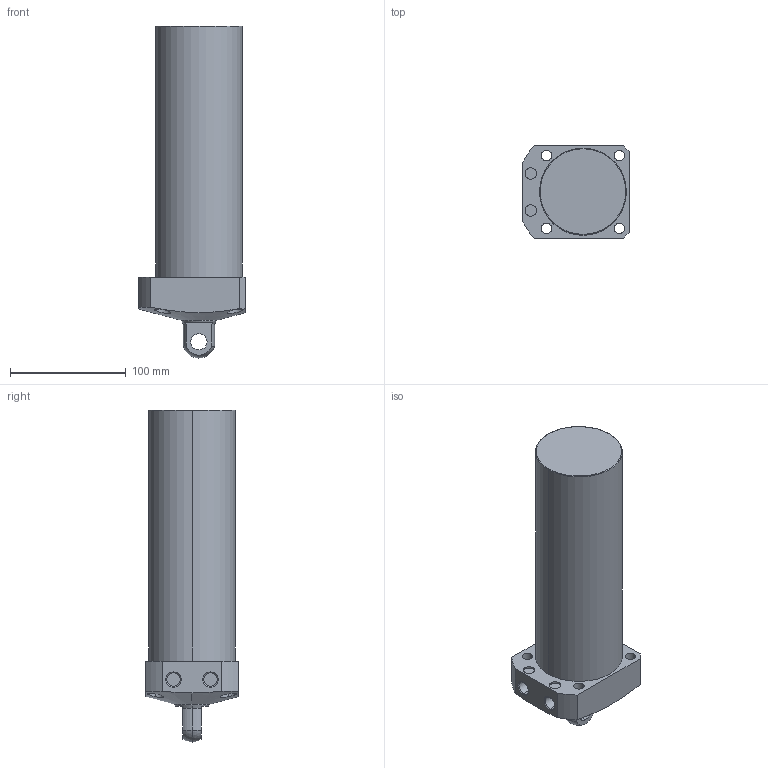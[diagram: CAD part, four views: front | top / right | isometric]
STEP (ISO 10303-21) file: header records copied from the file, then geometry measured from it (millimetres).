
FILE_DESCRIPTION (( 'STEP AP203' ), '1' );
FILE_NAME ('CLL-075CP-180.STEP', '2019-12-25T08:05:08', ( '' ), ( '' ), 'SwSTEP 2.0', 'SolidWorks 2015', '' );
FILE_SCHEMA (( 'CONFIG_CONTROL_DESIGN' ));
Length unit declared in the file: millimetre
Products named in the file (1): CLL-075CP-180
Bounding box: 92 x 80 x 287 mm (x, y, z)
Volume: 1186118.5 mm3; surface area: 83033.1 mm2
Topology: 1 solids, 1 shells, 68 faces, 159 edges, 103 vertices
Faces by surface type: cylinder 35, plane 21, cone 8, sphere 2, torus 2
Entity records: 2459 total; most frequent: CARTESIAN_POINT 762, DIRECTION 357, ORIENTED_EDGE 318, EDGE_CURVE 159, AXIS2_PLACEMENT_3D 149, VERTEX_POINT 103, EDGE_LOOP 88, CIRCLE 80
